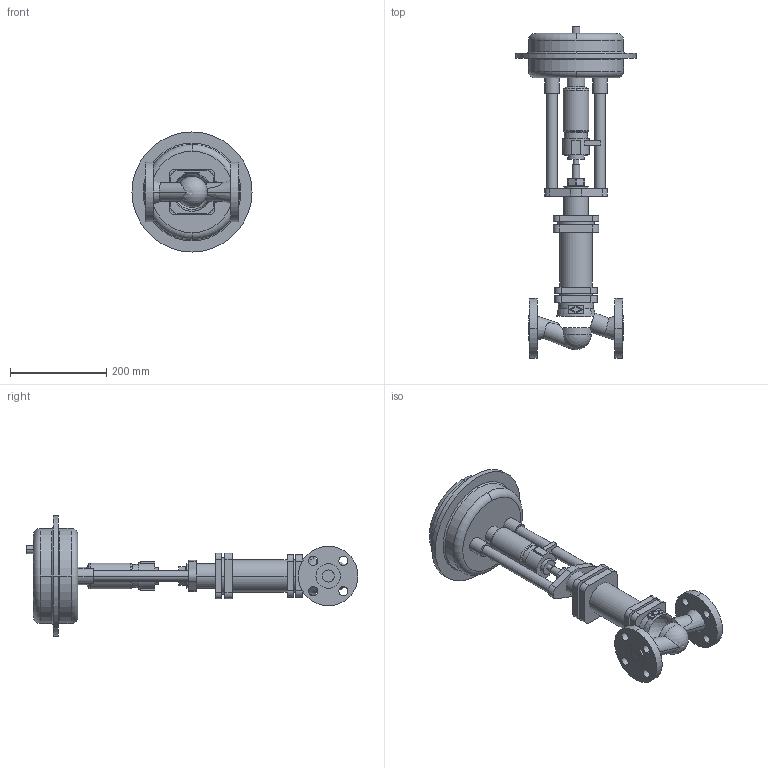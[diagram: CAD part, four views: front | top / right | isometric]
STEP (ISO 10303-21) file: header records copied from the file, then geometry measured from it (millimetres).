
FILE_DESCRIPTION( ( '' ), '1' );
FILE_NAME( 'F:/DE-SHS/TB/OR/04-Sonstiges/daten/files_3d/470-471_ANSI/c000005347.stp', '2014-05-28T06:44:40', ( '' ), ( '' ), ' ', ' ', ' ' );
FILE_SCHEMA( ( 'CONFIG_CONTROL_DESIGN' ) );
Length unit declared in the file: millimetre
Products named in the file (2): 1; 2
Bounding box: 250 x 691.5 x 250 mm (x, y, z)
Volume: 5242719.5 mm3; surface area: 428944.4 mm2
Topology: 2 solids, 2 shells, 224 faces, 575 edges, 382 vertices
Faces by surface type: cylinder 104, plane 93, torus 16, cone 8, sphere 3
Entity records: 7876 total; most frequent: CARTESIAN_POINT 2071, DIRECTION 1286, ORIENTED_EDGE 1138, EDGE_CURVE 569, AXIS2_PLACEMENT_3D 511, VERTEX_POINT 382, CIRCLE 285, EDGE_LOOP 273
